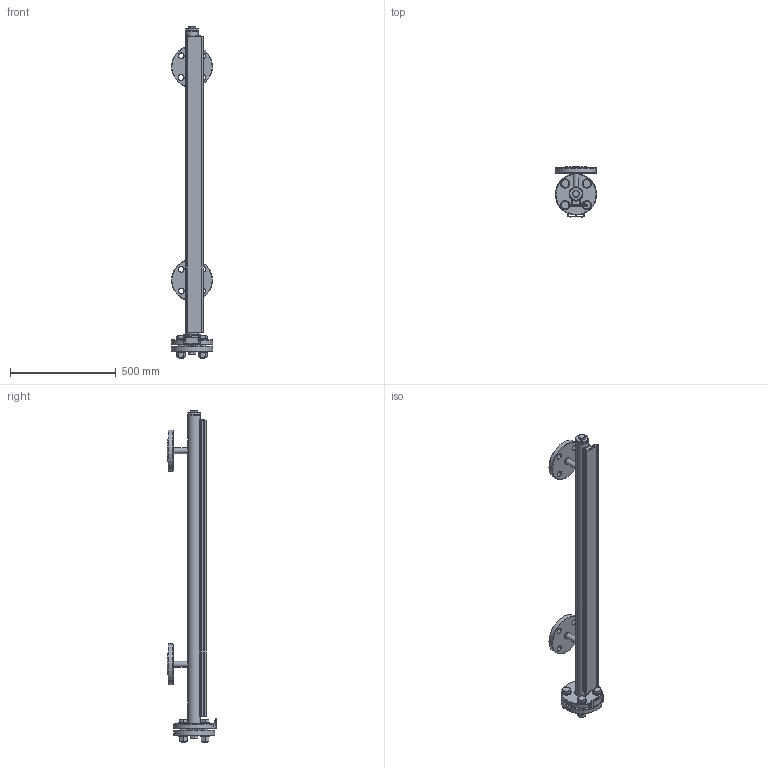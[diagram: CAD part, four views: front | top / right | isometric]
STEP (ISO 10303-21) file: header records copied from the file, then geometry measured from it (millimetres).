
FILE_DESCRIPTION(/* description */ (''),/* implementation_level */ '2;1');
FILE_NAME(/* name */ 'I:\Raj\3D\készülék rajzok\Összeállított készülékek\ML\ML_E_4.stp',/* time_stamp */ '2015-10-21T14:43:06+02:00',/* author */ ('aantal'),/* organization */ (''),/* preprocessor_version */ 'ST-DEVELOPER v15.6',/* originating_system */ 'Autodesk Inventor 2015',/* authorisation */ '');
FILE_SCHEMA (('AUTOMOTIVE_DESIGN { 1 0 10303 214 3 1 1 }'));
Length unit declared in the file: millimetre
Products named in the file (14): Cső 4E; DN50PN100; kijelző; kijelzővégzáró; ISO 7045 - M3 x 5 - 4.8 - ZISO; üveg; mérőkijelző; tábla1; ISO 4017 - M20 x 40ISO; ISO 4017 - M24 x 90ISO; ISO 7089 - 24 - 140 HV(1); ISO 4034 - M24ISO; D50 PN100 csav; ML_E_4
Bounding box: 195 x 234.5 x 1570.5 mm (x, y, z)
Volume: 4923116.8 mm3; surface area: 1720345.2 mm2
Topology: 33 solids, 33 shells, 944 faces, 2322 edges, 1493 vertices
Faces by surface type: plane 441, cone 227, cylinder 219, torus 45, sphere 10, bspline 2
Full cylindrical faces by diameter (mm): 2.729 x8, 2.9 x4, 3 x8, 20 x3, 20.5 x2, 20.752 x4, 21 x1, 24 x4, 25 x8, 26 x16, 26.9 x2, 28.19 x2, 33.61 x4, 44 x8, 54.5 x1, 60 x2, 61 x1, 102 x4, 195 x4
Entity records: 13965 total; most frequent: CARTESIAN_POINT 3016, DIRECTION 2291, ORIENTED_EDGE 2040, EDGE_CURVE 1020, AXIS2_PLACEMENT_3D 877, VERTEX_POINT 721, EDGE_LOOP 627, LINE 537
